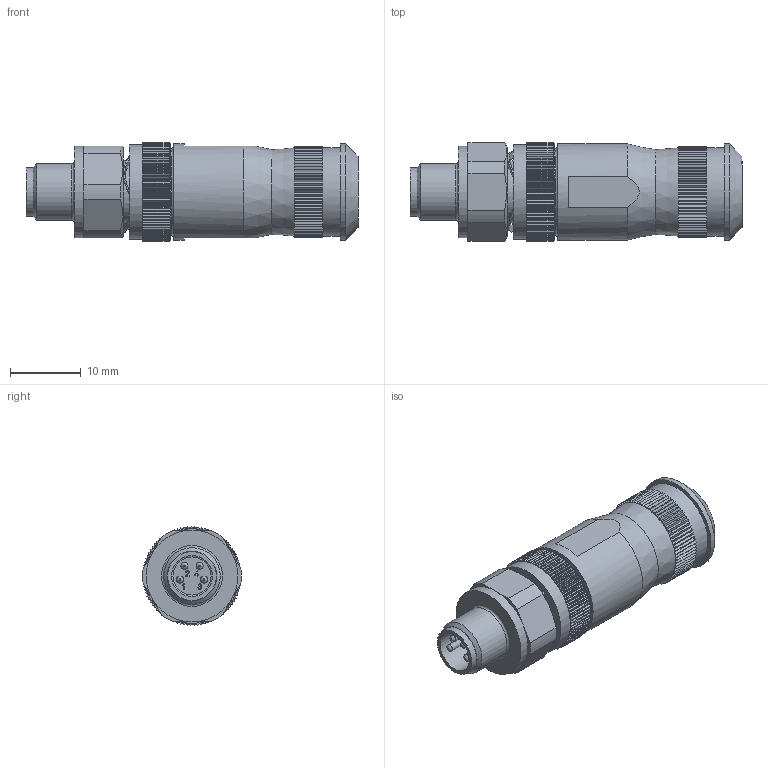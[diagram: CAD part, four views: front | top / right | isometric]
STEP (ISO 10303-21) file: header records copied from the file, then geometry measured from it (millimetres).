
FILE_DESCRIPTION(/* description */ (''),/* implementation_level */ '2;1');
FILE_NAME(/* name */ 'K:\Step\42\42-00035_42K1A324.stp',/* time_stamp */ '2016-08-01T10:00:18+02:00',/* author */ ('marinagitinow'),/* organization */ (''),/* preprocessor_version */ 'ST-DEVELOPER v15.6',/* originating_system */ 'Autodesk Inventor 2015',/* authorisation */ '');
FILE_SCHEMA (('AUTOMOTIVE_DESIGN { 1 0 10303 214 3 1 1 }'));
Length unit declared in the file: millimetre
Products named in the file (1): 42-00111_42K1A687
Bounding box: 47 x 13.98 x 13.97 mm (x, y, z)
Volume: 5616.8 mm3; surface area: 2630.1 mm2
Topology: 1 solids, 1 shells, 894 faces, 2394 edges, 1517 vertices
Faces by surface type: plane 730, cone 94, bspline 47, cylinder 20, torus 3
Full cylindrical faces by diameter (mm): 1 x4, 5.8 x1, 6.9 x1, 8 x1, 8.8 x1, 12.387 x1, 12.5 x1, 13 x1, 13.4 x1, 13.7 x2
Entity records: 28144 total; most frequent: CARTESIAN_POINT 6327, ORIENTED_EDGE 4722, DIRECTION 4314, EDGE_CURVE 2361, LINE 1536, VECTOR 1536, VERTEX_POINT 1506, AXIS2_PLACEMENT_3D 1389
